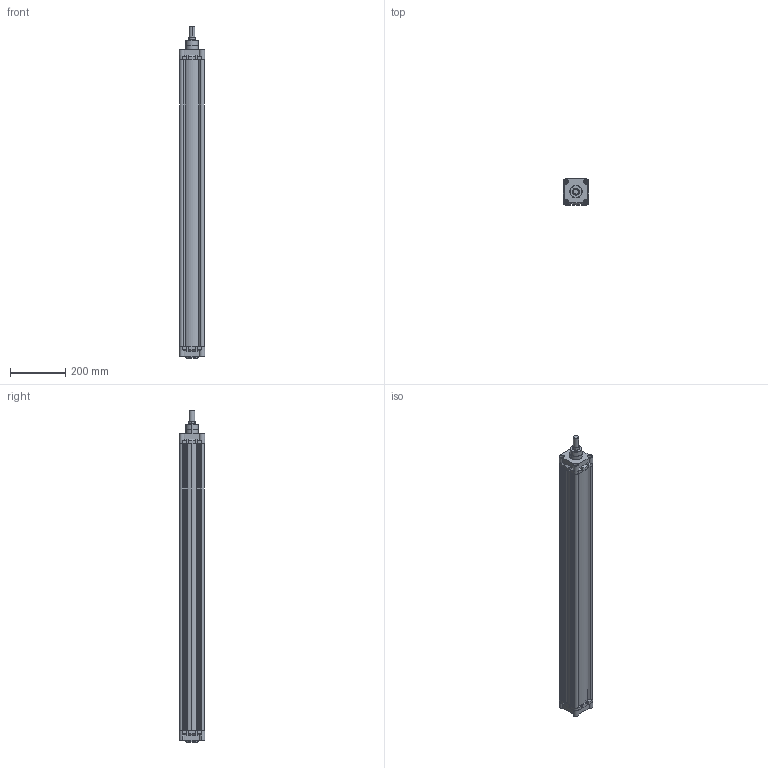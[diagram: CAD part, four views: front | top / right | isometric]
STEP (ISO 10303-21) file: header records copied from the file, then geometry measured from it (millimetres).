
FILE_DESCRIPTION (( 'STEP AP214' ), '1' );
FILE_NAME ('RIC_80_1000_WEB.STEP', '2020-09-23T08:04:53', ( '' ), ( '' ), 'SwSTEP 2.0', 'SolidWorks 2018', '' );
FILE_SCHEMA (( 'AUTOMOTIVE_DESIGN' ));
Length unit declared in the file: millimetre
Products named in the file (5): RIC_80_ONKAPAK_WEB; RIC_80_1000_WEB; RIC_80_BORU_WEB; RIC_80_MIL_WEB; RIC_80_ARKA_KAPAK_WEB
Assembly tree (4 placements, depth 2):
  RIC_80_1000_WEB
    RIC_80_ARKA_KAPAK_WEB
    RIC_80_BORU_WEB
    RIC_80_ONKAPAK_WEB
    RIC_80_MIL_WEB
Bounding box: 93 x 93 x 1202.6 mm (x, y, z)
Volume: 2577536.5 mm3; surface area: 913752.2 mm2
Topology: 4 solids, 4 shells, 468 faces, 1241 edges, 819 vertices
Faces by surface type: plane 246, cylinder 161, bspline 44, cone 11, torus 6
Entity records: 19109 total; most frequent: CARTESIAN_POINT 5717, ORIENTED_EDGE 2482, DIRECTION 2302, EDGE_CURVE 1241, VERTEX_POINT 819, LINE 790, VECTOR 790, AXIS2_PLACEMENT_3D 756
